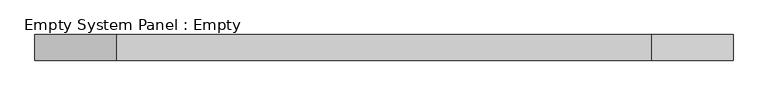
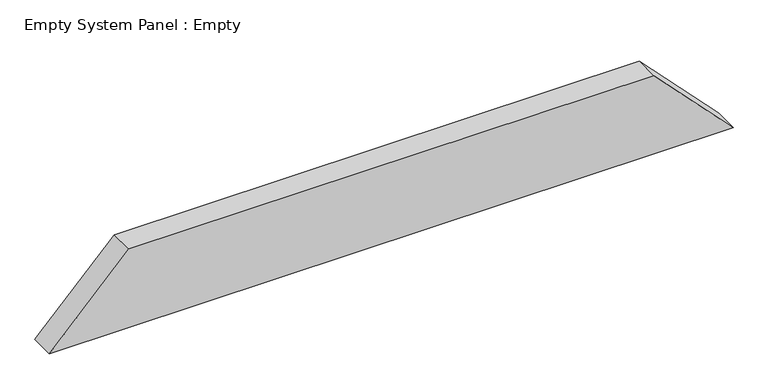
"""IFC4 building model written with IfcOpenShell, lengths in millimetres: plate geometry, Empty System Panel : Empty."""

from ifc_helpers import new_model, si_unit, frame, origin, place, context, project, spatial, polyline, outline, extrude, source, transform, mapped, element, save


def empty_system_panel_empty_01459a41(model_context):
    return source(origin(), model_context, "Body", "SweptSolid", [
        extrude(outline(polyline([(0.0, -1360.1867206), (0.0, 1360.1867206), (330.0, 1044.1040465), (330.0, -1044.1040465), (0.0, -1360.1867206)])), frame((0.0, -50.0, 0.0), z_axis=(0.0, 1.0, 0.0), x_axis=(0.0, 0.0, 1.0)), (0.0, 0.0, 1.0), 100.0),
    ])


if __name__ == "__main__":
    model = new_model("IFC4")
    model_context = context("Model", 3, world=origin())
    ifc_project = project(units=[si_unit("LENGTHUNIT", "METRE", prefix="MILLI")], contexts=[model_context])
    site = spatial("IfcSite", under=ifc_project)
    building = spatial("IfcBuilding", under=site)
    placement = place(None, origin())
    empty_system_panel_empty_shape = empty_system_panel_empty_01459a41(model_context)
    element("IfcPlate", 1, ObjectType="Empty System Panel : Empty", at=placement, inside=building, context=model_context, shape_type="MappedRepresentation", body=[
        mapped(empty_system_panel_empty_shape, transform((0.0, 0.0, 0.0), x_axis=(1.0, 0.0, 0.0), y_axis=(0.0, 1.0, 0.0), z_axis=(0.0, 0.0, 1.0))),
    ])
    save(model, "model.ifc")
